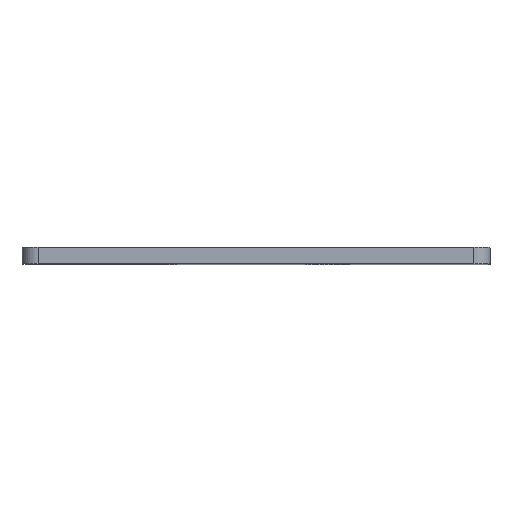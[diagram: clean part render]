
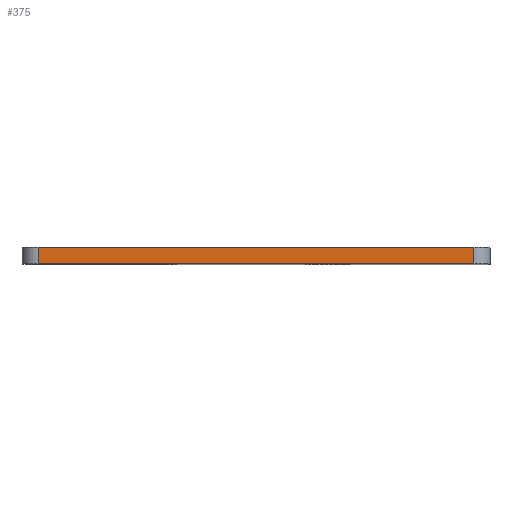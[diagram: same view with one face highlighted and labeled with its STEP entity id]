
A CAD part, top view. The second image highlights one B-rep face of the part: STEP entity #375.
In plain terms, the highlighted planar face has unit normal (0, 0, 1).
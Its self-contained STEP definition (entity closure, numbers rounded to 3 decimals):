
#79 = LINE ( 'NONE', #254, #602 ) ;
#98 = DIRECTION ( 'NONE',  ( 1., 0., 0. ) ) ;
#110 = AXIS2_PLACEMENT_3D ( 'NONE', #281, #179, #296 ) ;
#146 = EDGE_CURVE ( 'NONE', #562, #267, #576, .T. ) ;
#179 = DIRECTION ( 'NONE',  ( 0., 0., 1. ) ) ;
#194 = EDGE_LOOP ( 'NONE', ( #441, #251, #621, #570 ) ) ;
#215 = VECTOR ( 'NONE', #583, 1000. ) ;
#251 = ORIENTED_EDGE ( 'NONE', *, *, #541, .T. ) ;
#254 = CARTESIAN_POINT ( 'NONE',  ( 24.5, 3., 20.5 ) ) ;
#258 = VERTEX_POINT ( 'NONE', #578 ) ;
#267 = VERTEX_POINT ( 'NONE', #279 ) ;
#272 = CARTESIAN_POINT ( 'NONE',  ( 27.5, 0., 20.5 ) ) ;
#275 = DIRECTION ( 'NONE',  ( 0., -1., 0. ) ) ;
#276 = VECTOR ( 'NONE', #657, 1000. ) ;
#279 = CARTESIAN_POINT ( 'NONE',  ( 107.5, 3., 20.5 ) ) ;
#281 = CARTESIAN_POINT ( 'NONE',  ( 24.5, 0., 20.5 ) ) ;
#289 = LINE ( 'NONE', #272, #402 ) ;
#296 = DIRECTION ( 'NONE',  ( 1., 0., 0. ) ) ;
#358 = CARTESIAN_POINT ( 'NONE',  ( 107.5, 0., 20.5 ) ) ;
#367 = FACE_OUTER_BOUND ( 'NONE', #194, .T. ) ;
#375 = ADVANCED_FACE ( 'NONE', ( #367 ), #528, .T. ) ;
#402 = VECTOR ( 'NONE', #275, 1000. ) ;
#441 = ORIENTED_EDGE ( 'NONE', *, *, #579, .F. ) ;
#462 = EDGE_CURVE ( 'NONE', #258, #562, #506, .T. ) ;
#506 = LINE ( 'NONE', #655, #276 ) ;
#528 = PLANE ( 'NONE',  #110 ) ;
#541 = EDGE_CURVE ( 'NONE', #556, #258, #289, .T. ) ;
#548 = CARTESIAN_POINT ( 'NONE',  ( 27.5, 3., 20.5 ) ) ;
#556 = VERTEX_POINT ( 'NONE', #548 ) ;
#562 = VERTEX_POINT ( 'NONE', #604 ) ;
#570 = ORIENTED_EDGE ( 'NONE', *, *, #146, .T. ) ;
#576 = LINE ( 'NONE', #358, #215 ) ;
#578 = CARTESIAN_POINT ( 'NONE',  ( 27.5, 0., 20.5 ) ) ;
#579 = EDGE_CURVE ( 'NONE', #556, #267, #79, .T. ) ;
#583 = DIRECTION ( 'NONE',  ( 0., 1., 0. ) ) ;
#602 = VECTOR ( 'NONE', #98, 1000. ) ;
#604 = CARTESIAN_POINT ( 'NONE',  ( 107.5, 0., 20.5 ) ) ;
#621 = ORIENTED_EDGE ( 'NONE', *, *, #462, .T. ) ;
#655 = CARTESIAN_POINT ( 'NONE',  ( 24.5, 0., 20.5 ) ) ;
#657 = DIRECTION ( 'NONE',  ( 1., 0., 0. ) ) ;
